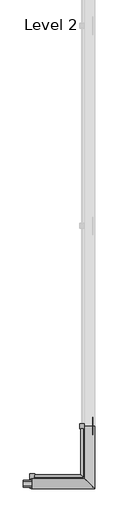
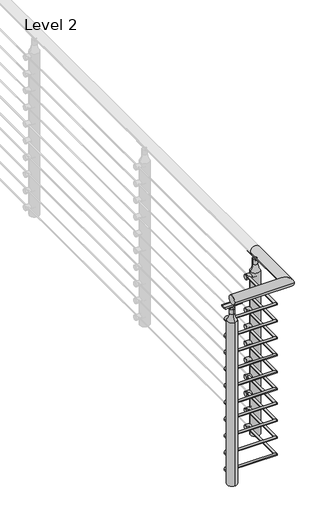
# One storey, part 6 of 21: 1 railing.
"""IFC4 building model written with IfcOpenShell, lengths in millimetres."""

from ifc_helpers import new_model, si_unit, point, frame, frame_2d, origin, place, context, project, spatial, polyline, circle_curve, ellipse_curve, trimmed, segment, composite_curve, outline, extrude, element, save
from ifc_brep_helpers import plane_surface, cylinder_surface, revolved_surface, advanced_brep

model = new_model("IFC4")

# Units and contexts
model_context = context("Model", 3, world=origin())
ifc_project = project(units=[si_unit("LENGTHUNIT", "METRE", prefix="MILLI")], contexts=[model_context])

# Site, building, storey
site = spatial("IfcSite", under=ifc_project)
building = spatial("IfcBuilding", under=site)
storey = spatial("IfcBuildingStorey", under=building, Name="Level 2", Elevation=3048.0)

# Railing
placement = place(None, origin())
element("IfcRailing", 1, ObjectType="VIVA-CIRCA-Multiline-Cable-Weld Mount-Corner", at=placement, inside=storey, context=model_context, shape_type="SolidModel", body=[
    advanced_brep(
    [(46126.2072927, -68844.6034511, 4102.1), (46126.2072927, -68793.8034511, 4102.1), (46443.7072927, -68844.6034511, 4102.1), (46392.9072927, -68793.8034511, 4102.1), (46443.7072927, -68527.1034511, 4102.1), (46392.9072927, -68527.1034511, 4102.1)],
    [
        (0, 1, circle_curve(frame((46126.2072927, -68819.2034511, 4102.1), z_axis=(-1.0, 0.0, 0.0), x_axis=(0.0, 1.0, 0.0)), 25.4)),
        (1, 0, circle_curve(frame((46126.2072927, -68819.2034511, 4102.1), z_axis=(-1.0, 0.0, 0.0), x_axis=(0.0, 1.0, 0.0)), 25.4)),
        (0, 2),
        (2, 3, ellipse_curve(frame((46418.3072927, -68819.2034511, 4102.1), z_axis=(-0.7071067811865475, -0.7071067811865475, 0.0), x_axis=(-0.7071067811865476, 0.7071067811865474, 0.0)), 35.9210245, 25.4)),
        (3, 1),
        (3, 2, ellipse_curve(frame((46418.3072927, -68819.2034511, 4102.1), z_axis=(-0.7071067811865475, -0.7071067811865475, 0.0), x_axis=(-0.7071067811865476, 0.7071067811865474, 0.0)), 35.9210245, 25.4)),
        (4, 5, circle_curve(frame((46418.3072927, -68527.1034511, 4102.1), z_axis=(0.0, 1.0, 0.0), x_axis=(-1.0, 0.0, 0.0)), 25.4)),
        (5, 4, circle_curve(frame((46418.3072927, -68527.1034511, 4102.1), z_axis=(0.0, 1.0, 0.0), x_axis=(-1.0, 0.0, 0.0)), 25.4)),
        (2, 4),
        (5, 3),
    ],
    [
        plane_surface(frame((46126.2072927, -68819.2034511, 4127.5), z_axis=(-1.0, 0.0, 0.0), x_axis=(0.0, 1.0, 0.0))),
        cylinder_surface(frame((46126.2072927, -68819.2034511, 4102.1), z_axis=(-1.0, 0.0, 0.0), x_axis=(0.0, 1.0, 0.0)), 25.4),
        plane_surface(frame((46418.3072927, -68527.1034511, 4127.5), z_axis=(0.0, 1.0, 0.0), x_axis=(0.0, 0.0, 1.0))),
        cylinder_surface(frame((46418.3072927, -68819.2034511, 4102.1), z_axis=(0.0, -1.0, 0.0), x_axis=(-1.0, 0.0, 0.0)), 25.4),
    ],
    [
        (0, [[1, 2]]),
        (1, [[-1, 3, 4, 5]]),
        (1, [[-2, -5, 6, -3]]),
        (2, [[7, 8]]),
        (3, [[-4, 9, -8, 10]]),
        (3, [[-6, -10, -7, -9]]),
    ],
),
    advanced_brep(
    [(46126.2072927, -68774.7534511, 3968.75), (46126.2072927, -68787.4534511, 3968.75), (46373.8572927, -68774.7534511, 3968.75), (46386.5572927, -68787.4534511, 3968.75), (46373.8572927, -68527.1034511, 3968.75), (46386.5572927, -68527.1034511, 3968.75)],
    [
        (0, 1, circle_curve(frame((46126.2072927, -68781.1034511, 3968.75), z_axis=(-1.0, 0.0, 0.0), x_axis=(0.0, -1.0, 0.0)), 6.35)),
        (1, 0, circle_curve(frame((46126.2072927, -68781.1034511, 3968.75), z_axis=(-1.0, 0.0, 0.0), x_axis=(0.0, -1.0, 0.0)), 6.35)),
        (0, 2),
        (2, 3, ellipse_curve(frame((46380.2072927, -68781.1034511, 3968.75), z_axis=(-0.7071067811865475, -0.7071067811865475, 0.0), x_axis=(-0.7071067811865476, 0.7071067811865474, 0.0)), 8.9802561, 6.35)),
        (3, 1),
        (3, 2, ellipse_curve(frame((46380.2072927, -68781.1034511, 3968.75), z_axis=(-0.7071067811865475, -0.7071067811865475, 0.0), x_axis=(-0.7071067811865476, 0.7071067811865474, 0.0)), 8.9802561, 6.35)),
        (4, 5, circle_curve(frame((46380.2072927, -68527.1034511, 3968.75), z_axis=(0.0, 1.0, 0.0), x_axis=(1.0, 0.0, 0.0)), 6.35)),
        (5, 4, circle_curve(frame((46380.2072927, -68527.1034511, 3968.75), z_axis=(0.0, 1.0, 0.0), x_axis=(1.0, 0.0, 0.0)), 6.35)),
        (2, 4),
        (5, 3),
    ],
    [
        plane_surface(frame((46126.2072927, -68781.1034511, 3975.1), z_axis=(-1.0, 0.0, 0.0), x_axis=(0.0, 1.0, 0.0))),
        cylinder_surface(frame((46126.2072927, -68781.1034511, 3968.75), z_axis=(-1.0, 0.0, 0.0), x_axis=(0.0, -1.0, 0.0)), 6.35),
        plane_surface(frame((46380.2072927, -68527.1034511, 3975.1), z_axis=(0.0, 1.0, 0.0), x_axis=(0.0, 0.0, 1.0))),
        cylinder_surface(frame((46380.2072927, -68781.1034511, 3968.75), z_axis=(0.0, -1.0, 0.0), x_axis=(1.0, 0.0, 0.0)), 6.35),
    ],
    [
        (0, [[1, 2]]),
        (1, [[-1, 3, 4, 5]]),
        (1, [[-2, -5, 6, -3]]),
        (2, [[7, 8]]),
        (3, [[-4, 9, -8, 10]]),
        (3, [[-6, -10, -7, -9]]),
    ],
),
    advanced_brep(
    [(46126.2072927, -68774.7534511, 3873.5), (46126.2072927, -68787.4534511, 3873.5), (46373.8572927, -68774.7534511, 3873.5), (46386.5572927, -68787.4534511, 3873.5), (46373.8572927, -68527.1034511, 3873.5), (46386.5572927, -68527.1034511, 3873.5)],
    [
        (0, 1, circle_curve(frame((46126.2072927, -68781.1034511, 3873.5), z_axis=(-1.0, 0.0, 0.0), x_axis=(0.0, -1.0, 0.0)), 6.35)),
        (1, 0, circle_curve(frame((46126.2072927, -68781.1034511, 3873.5), z_axis=(-1.0, 0.0, 0.0), x_axis=(0.0, -1.0, 0.0)), 6.35)),
        (0, 2),
        (2, 3, ellipse_curve(frame((46380.2072927, -68781.1034511, 3873.5), z_axis=(-0.7071067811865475, -0.7071067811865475, 0.0), x_axis=(-0.7071067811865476, 0.7071067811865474, 0.0)), 8.9802561, 6.35)),
        (3, 1),
        (3, 2, ellipse_curve(frame((46380.2072927, -68781.1034511, 3873.5), z_axis=(-0.7071067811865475, -0.7071067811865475, 0.0), x_axis=(-0.7071067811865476, 0.7071067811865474, 0.0)), 8.9802561, 6.35)),
        (4, 5, circle_curve(frame((46380.2072927, -68527.1034511, 3873.5), z_axis=(0.0, 1.0, 0.0), x_axis=(1.0, 0.0, 0.0)), 6.35)),
        (5, 4, circle_curve(frame((46380.2072927, -68527.1034511, 3873.5), z_axis=(0.0, 1.0, 0.0), x_axis=(1.0, 0.0, 0.0)), 6.35)),
        (2, 4),
        (5, 3),
    ],
    [
        plane_surface(frame((46126.2072927, -68781.1034511, 3879.85), z_axis=(-1.0, 0.0, 0.0), x_axis=(0.0, 1.0, 0.0))),
        cylinder_surface(frame((46126.2072927, -68781.1034511, 3873.5), z_axis=(-1.0, 0.0, 0.0), x_axis=(0.0, -1.0, 0.0)), 6.35),
        plane_surface(frame((46380.2072927, -68527.1034511, 3879.85), z_axis=(0.0, 1.0, 0.0), x_axis=(0.0, 0.0, 1.0))),
        cylinder_surface(frame((46380.2072927, -68781.1034511, 3873.5), z_axis=(0.0, -1.0, 0.0), x_axis=(1.0, 0.0, 0.0)), 6.35),
    ],
    [
        (0, [[1, 2]]),
        (1, [[-1, 3, 4, 5]]),
        (1, [[-2, -5, 6, -3]]),
        (2, [[7, 8]]),
        (3, [[-4, 9, -8, 10]]),
        (3, [[-6, -10, -7, -9]]),
    ],
),
    advanced_brep(
    [(46126.2072927, -68774.7534511, 3778.25), (46126.2072927, -68787.4534511, 3778.25), (46373.8572927, -68774.7534511, 3778.25), (46386.5572927, -68787.4534511, 3778.25), (46373.8572927, -68527.1034511, 3778.25), (46386.5572927, -68527.1034511, 3778.25)],
    [
        (0, 1, circle_curve(frame((46126.2072927, -68781.1034511, 3778.25), z_axis=(-1.0, 0.0, 0.0), x_axis=(0.0, -1.0, 0.0)), 6.35)),
        (1, 0, circle_curve(frame((46126.2072927, -68781.1034511, 3778.25), z_axis=(-1.0, 0.0, 0.0), x_axis=(0.0, -1.0, 0.0)), 6.35)),
        (0, 2),
        (2, 3, ellipse_curve(frame((46380.2072927, -68781.1034511, 3778.25), z_axis=(-0.7071067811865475, -0.7071067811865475, 0.0), x_axis=(-0.7071067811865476, 0.7071067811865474, 0.0)), 8.9802561, 6.35)),
        (3, 1),
        (3, 2, ellipse_curve(frame((46380.2072927, -68781.1034511, 3778.25), z_axis=(-0.7071067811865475, -0.7071067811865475, 0.0), x_axis=(-0.7071067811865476, 0.7071067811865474, 0.0)), 8.9802561, 6.35)),
        (4, 5, circle_curve(frame((46380.2072927, -68527.1034511, 3778.25), z_axis=(0.0, 1.0, 0.0), x_axis=(1.0, 0.0, 0.0)), 6.35)),
        (5, 4, circle_curve(frame((46380.2072927, -68527.1034511, 3778.25), z_axis=(0.0, 1.0, 0.0), x_axis=(1.0, 0.0, 0.0)), 6.35)),
        (2, 4),
        (5, 3),
    ],
    [
        plane_surface(frame((46126.2072927, -68781.1034511, 3784.6), z_axis=(-1.0, 0.0, 0.0), x_axis=(0.0, 1.0, 0.0))),
        cylinder_surface(frame((46126.2072927, -68781.1034511, 3778.25), z_axis=(-1.0, 0.0, 0.0), x_axis=(0.0, -1.0, 0.0)), 6.35),
        plane_surface(frame((46380.2072927, -68527.1034511, 3784.6), z_axis=(0.0, 1.0, 0.0), x_axis=(0.0, 0.0, 1.0))),
        cylinder_surface(frame((46380.2072927, -68781.1034511, 3778.25), z_axis=(0.0, -1.0, 0.0), x_axis=(1.0, 0.0, 0.0)), 6.35),
    ],
    [
        (0, [[1, 2]]),
        (1, [[-1, 3, 4, 5]]),
        (1, [[-2, -5, 6, -3]]),
        (2, [[7, 8]]),
        (3, [[-4, 9, -8, 10]]),
        (3, [[-6, -10, -7, -9]]),
    ],
),
    advanced_brep(
    [(46126.2072927, -68774.7534511, 3683.0), (46126.2072927, -68787.4534511, 3683.0), (46373.8572927, -68774.7534511, 3683.0), (46386.5572927, -68787.4534511, 3683.0), (46373.8572927, -68527.1034511, 3683.0), (46386.5572927, -68527.1034511, 3683.0)],
    [
        (0, 1, circle_curve(frame((46126.2072927, -68781.1034511, 3683.0), z_axis=(-1.0, 0.0, 0.0), x_axis=(0.0, -1.0, 0.0)), 6.35)),
        (1, 0, circle_curve(frame((46126.2072927, -68781.1034511, 3683.0), z_axis=(-1.0, 0.0, 0.0), x_axis=(0.0, -1.0, 0.0)), 6.35)),
        (0, 2),
        (2, 3, ellipse_curve(frame((46380.2072927, -68781.1034511, 3683.0), z_axis=(-0.7071067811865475, -0.7071067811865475, 0.0), x_axis=(-0.7071067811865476, 0.7071067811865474, 0.0)), 8.9802561, 6.35)),
        (3, 1),
        (3, 2, ellipse_curve(frame((46380.2072927, -68781.1034511, 3683.0), z_axis=(-0.7071067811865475, -0.7071067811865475, 0.0), x_axis=(-0.7071067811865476, 0.7071067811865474, 0.0)), 8.9802561, 6.35)),
        (4, 5, circle_curve(frame((46380.2072927, -68527.1034511, 3683.0), z_axis=(0.0, 1.0, 0.0), x_axis=(1.0, 0.0, 0.0)), 6.35)),
        (5, 4, circle_curve(frame((46380.2072927, -68527.1034511, 3683.0), z_axis=(0.0, 1.0, 0.0), x_axis=(1.0, 0.0, 0.0)), 6.35)),
        (2, 4),
        (5, 3),
    ],
    [
        plane_surface(frame((46126.2072927, -68781.1034511, 3689.35), z_axis=(-1.0, 0.0, 0.0), x_axis=(0.0, 1.0, 0.0))),
        cylinder_surface(frame((46126.2072927, -68781.1034511, 3683.0), z_axis=(-1.0, 0.0, 0.0), x_axis=(0.0, -1.0, 0.0)), 6.35),
        plane_surface(frame((46380.2072927, -68527.1034511, 3689.35), z_axis=(0.0, 1.0, 0.0), x_axis=(0.0, 0.0, 1.0))),
        cylinder_surface(frame((46380.2072927, -68781.1034511, 3683.0), z_axis=(0.0, -1.0, 0.0), x_axis=(1.0, 0.0, 0.0)), 6.35),
    ],
    [
        (0, [[1, 2]]),
        (1, [[-1, 3, 4, 5]]),
        (1, [[-2, -5, 6, -3]]),
        (2, [[7, 8]]),
        (3, [[-4, 9, -8, 10]]),
        (3, [[-6, -10, -7, -9]]),
    ],
),
    advanced_brep(
    [(46126.2072927, -68774.7534511, 3587.75), (46126.2072927, -68787.4534511, 3587.75), (46373.8572927, -68774.7534511, 3587.75), (46386.5572927, -68787.4534511, 3587.75), (46373.8572927, -68527.1034511, 3587.75), (46386.5572927, -68527.1034511, 3587.75)],
    [
        (0, 1, circle_curve(frame((46126.2072927, -68781.1034511, 3587.75), z_axis=(-1.0, 0.0, 0.0), x_axis=(0.0, -1.0, 0.0)), 6.35)),
        (1, 0, circle_curve(frame((46126.2072927, -68781.1034511, 3587.75), z_axis=(-1.0, 0.0, 0.0), x_axis=(0.0, -1.0, 0.0)), 6.35)),
        (0, 2),
        (2, 3, ellipse_curve(frame((46380.2072927, -68781.1034511, 3587.75), z_axis=(-0.7071067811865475, -0.7071067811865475, 0.0), x_axis=(-0.7071067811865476, 0.7071067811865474, 0.0)), 8.9802561, 6.35)),
        (3, 1),
        (3, 2, ellipse_curve(frame((46380.2072927, -68781.1034511, 3587.75), z_axis=(-0.7071067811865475, -0.7071067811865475, 0.0), x_axis=(-0.7071067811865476, 0.7071067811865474, 0.0)), 8.9802561, 6.35)),
        (4, 5, circle_curve(frame((46380.2072927, -68527.1034511, 3587.75), z_axis=(0.0, 1.0, 0.0), x_axis=(1.0, 0.0, 0.0)), 6.35)),
        (5, 4, circle_curve(frame((46380.2072927, -68527.1034511, 3587.75), z_axis=(0.0, 1.0, 0.0), x_axis=(1.0, 0.0, 0.0)), 6.35)),
        (2, 4),
        (5, 3),
    ],
    [
        plane_surface(frame((46126.2072927, -68781.1034511, 3594.1), z_axis=(-1.0, 0.0, 0.0), x_axis=(0.0, 1.0, 0.0))),
        cylinder_surface(frame((46126.2072927, -68781.1034511, 3587.75), z_axis=(-1.0, 0.0, 0.0), x_axis=(0.0, -1.0, 0.0)), 6.35),
        plane_surface(frame((46380.2072927, -68527.1034511, 3594.1), z_axis=(0.0, 1.0, 0.0), x_axis=(0.0, 0.0, 1.0))),
        cylinder_surface(frame((46380.2072927, -68781.1034511, 3587.75), z_axis=(0.0, -1.0, 0.0), x_axis=(1.0, 0.0, 0.0)), 6.35),
    ],
    [
        (0, [[1, 2]]),
        (1, [[-1, 3, 4, 5]]),
        (1, [[-2, -5, 6, -3]]),
        (2, [[7, 8]]),
        (3, [[-4, 9, -8, 10]]),
        (3, [[-6, -10, -7, -9]]),
    ],
),
    advanced_brep(
    [(46126.2072927, -68774.7534511, 3492.5), (46126.2072927, -68787.4534511, 3492.5), (46373.8572927, -68774.7534511, 3492.5), (46386.5572927, -68787.4534511, 3492.5), (46373.8572927, -68527.1034511, 3492.5), (46386.5572927, -68527.1034511, 3492.5)],
    [
        (0, 1, circle_curve(frame((46126.2072927, -68781.1034511, 3492.5), z_axis=(-1.0, 0.0, 0.0), x_axis=(0.0, -1.0, 0.0)), 6.35)),
        (1, 0, circle_curve(frame((46126.2072927, -68781.1034511, 3492.5), z_axis=(-1.0, 0.0, 0.0), x_axis=(0.0, -1.0, 0.0)), 6.35)),
        (0, 2),
        (2, 3, ellipse_curve(frame((46380.2072927, -68781.1034511, 3492.5), z_axis=(-0.7071067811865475, -0.7071067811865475, 0.0), x_axis=(-0.7071067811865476, 0.7071067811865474, 0.0)), 8.9802561, 6.35)),
        (3, 1),
        (3, 2, ellipse_curve(frame((46380.2072927, -68781.1034511, 3492.5), z_axis=(-0.7071067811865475, -0.7071067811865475, 0.0), x_axis=(-0.7071067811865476, 0.7071067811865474, 0.0)), 8.9802561, 6.35)),
        (4, 5, circle_curve(frame((46380.2072927, -68527.1034511, 3492.5), z_axis=(0.0, 1.0, 0.0), x_axis=(1.0, 0.0, 0.0)), 6.35)),
        (5, 4, circle_curve(frame((46380.2072927, -68527.1034511, 3492.5), z_axis=(0.0, 1.0, 0.0), x_axis=(1.0, 0.0, 0.0)), 6.35)),
        (2, 4),
        (5, 3),
    ],
    [
        plane_surface(frame((46126.2072927, -68781.1034511, 3498.85), z_axis=(-1.0, 0.0, 0.0), x_axis=(0.0, 1.0, 0.0))),
        cylinder_surface(frame((46126.2072927, -68781.1034511, 3492.5), z_axis=(-1.0, 0.0, 0.0), x_axis=(0.0, -1.0, 0.0)), 6.35),
        plane_surface(frame((46380.2072927, -68527.1034511, 3498.85), z_axis=(0.0, 1.0, 0.0), x_axis=(0.0, 0.0, 1.0))),
        cylinder_surface(frame((46380.2072927, -68781.1034511, 3492.5), z_axis=(0.0, -1.0, 0.0), x_axis=(1.0, 0.0, 0.0)), 6.35),
    ],
    [
        (0, [[1, 2]]),
        (1, [[-1, 3, 4, 5]]),
        (1, [[-2, -5, 6, -3]]),
        (2, [[7, 8]]),
        (3, [[-4, 9, -8, 10]]),
        (3, [[-6, -10, -7, -9]]),
    ],
),
    advanced_brep(
    [(46126.2072927, -68774.7534511, 3409.95), (46126.2072927, -68787.4534511, 3409.95), (46373.8572927, -68774.7534511, 3409.95), (46386.5572927, -68787.4534511, 3409.95), (46373.8572927, -68527.1034511, 3409.95), (46386.5572927, -68527.1034511, 3409.95)],
    [
        (0, 1, circle_curve(frame((46126.2072927, -68781.1034511, 3409.95), z_axis=(-1.0, 0.0, 0.0), x_axis=(0.0, -1.0, 0.0)), 6.35)),
        (1, 0, circle_curve(frame((46126.2072927, -68781.1034511, 3409.95), z_axis=(-1.0, 0.0, 0.0), x_axis=(0.0, -1.0, 0.0)), 6.35)),
        (0, 2),
        (2, 3, ellipse_curve(frame((46380.2072927, -68781.1034511, 3409.95), z_axis=(-0.7071067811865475, -0.7071067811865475, 0.0), x_axis=(-0.7071067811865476, 0.7071067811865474, 0.0)), 8.9802561, 6.35)),
        (3, 1),
        (3, 2, ellipse_curve(frame((46380.2072927, -68781.1034511, 3409.95), z_axis=(-0.7071067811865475, -0.7071067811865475, 0.0), x_axis=(-0.7071067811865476, 0.7071067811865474, 0.0)), 8.9802561, 6.35)),
        (4, 5, circle_curve(frame((46380.2072927, -68527.1034511, 3409.95), z_axis=(0.0, 1.0, 0.0), x_axis=(1.0, 0.0, 0.0)), 6.35)),
        (5, 4, circle_curve(frame((46380.2072927, -68527.1034511, 3409.95), z_axis=(0.0, 1.0, 0.0), x_axis=(1.0, 0.0, 0.0)), 6.35)),
        (2, 4),
        (5, 3),
    ],
    [
        plane_surface(frame((46126.2072927, -68781.1034511, 3416.3), z_axis=(-1.0, 0.0, 0.0), x_axis=(0.0, 1.0, 0.0))),
        cylinder_surface(frame((46126.2072927, -68781.1034511, 3409.95), z_axis=(-1.0, 0.0, 0.0), x_axis=(0.0, -1.0, 0.0)), 6.35),
        plane_surface(frame((46380.2072927, -68527.1034511, 3416.3), z_axis=(0.0, 1.0, 0.0), x_axis=(0.0, 0.0, 1.0))),
        cylinder_surface(frame((46380.2072927, -68781.1034511, 3409.95), z_axis=(0.0, -1.0, 0.0), x_axis=(1.0, 0.0, 0.0)), 6.35),
    ],
    [
        (0, [[1, 2]]),
        (1, [[-1, 3, 4, 5]]),
        (1, [[-2, -5, 6, -3]]),
        (2, [[7, 8]]),
        (3, [[-4, 9, -8, 10]]),
        (3, [[-6, -10, -7, -9]]),
    ],
),
    advanced_brep(
    [(46126.2072927, -68774.7534511, 3314.7), (46126.2072927, -68787.4534511, 3314.7), (46373.8572927, -68774.7534511, 3314.7), (46386.5572927, -68787.4534511, 3314.7), (46373.8572927, -68527.1034511, 3314.7), (46386.5572927, -68527.1034511, 3314.7)],
    [
        (0, 1, circle_curve(frame((46126.2072927, -68781.1034511, 3314.7), z_axis=(-1.0, 0.0, 0.0), x_axis=(0.0, -1.0, 0.0)), 6.35)),
        (1, 0, circle_curve(frame((46126.2072927, -68781.1034511, 3314.7), z_axis=(-1.0, 0.0, 0.0), x_axis=(0.0, -1.0, 0.0)), 6.35)),
        (0, 2),
        (2, 3, ellipse_curve(frame((46380.2072927, -68781.1034511, 3314.7), z_axis=(-0.7071067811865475, -0.7071067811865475, 0.0), x_axis=(-0.7071067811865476, 0.7071067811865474, 0.0)), 8.9802561, 6.35)),
        (3, 1),
        (3, 2, ellipse_curve(frame((46380.2072927, -68781.1034511, 3314.7), z_axis=(-0.7071067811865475, -0.7071067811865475, 0.0), x_axis=(-0.7071067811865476, 0.7071067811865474, 0.0)), 8.9802561, 6.35)),
        (4, 5, circle_curve(frame((46380.2072927, -68527.1034511, 3314.7), z_axis=(0.0, 1.0, 0.0), x_axis=(1.0, 0.0, 0.0)), 6.35)),
        (5, 4, circle_curve(frame((46380.2072927, -68527.1034511, 3314.7), z_axis=(0.0, 1.0, 0.0), x_axis=(1.0, 0.0, 0.0)), 6.35)),
        (2, 4),
        (5, 3),
    ],
    [
        plane_surface(frame((46126.2072927, -68781.1034511, 3321.05), z_axis=(-1.0, 0.0, 0.0), x_axis=(0.0, 1.0, 0.0))),
        cylinder_surface(frame((46126.2072927, -68781.1034511, 3314.7), z_axis=(-1.0, 0.0, 0.0), x_axis=(0.0, -1.0, 0.0)), 6.35),
        plane_surface(frame((46380.2072927, -68527.1034511, 3321.05), z_axis=(0.0, 1.0, 0.0), x_axis=(0.0, 0.0, 1.0))),
        cylinder_surface(frame((46380.2072927, -68781.1034511, 3314.7), z_axis=(0.0, -1.0, 0.0), x_axis=(1.0, 0.0, 0.0)), 6.35),
    ],
    [
        (0, [[1, 2]]),
        (1, [[-1, 3, 4, 5]]),
        (1, [[-2, -5, 6, -3]]),
        (2, [[7, 8]]),
        (3, [[-4, 9, -8, 10]]),
        (3, [[-6, -10, -7, -9]]),
    ],
),
    advanced_brep(
    [(46126.2072927, -68774.7534511, 3219.45), (46126.2072927, -68787.4534511, 3219.45), (46373.8572927, -68774.7534511, 3219.45), (46386.5572927, -68787.4534511, 3219.45), (46373.8572927, -68527.1034511, 3219.45), (46386.5572927, -68527.1034511, 3219.45)],
    [
        (0, 1, circle_curve(frame((46126.2072927, -68781.1034511, 3219.45), z_axis=(-1.0, 0.0, 0.0), x_axis=(0.0, -1.0, 0.0)), 6.35)),
        (1, 0, circle_curve(frame((46126.2072927, -68781.1034511, 3219.45), z_axis=(-1.0, 0.0, 0.0), x_axis=(0.0, -1.0, 0.0)), 6.35)),
        (0, 2),
        (2, 3, ellipse_curve(frame((46380.2072927, -68781.1034511, 3219.45), z_axis=(-0.7071067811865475, -0.7071067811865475, 0.0), x_axis=(-0.7071067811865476, 0.7071067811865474, 0.0)), 8.9802561, 6.35)),
        (3, 1),
        (3, 2, ellipse_curve(frame((46380.2072927, -68781.1034511, 3219.45), z_axis=(-0.7071067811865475, -0.7071067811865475, 0.0), x_axis=(-0.7071067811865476, 0.7071067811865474, 0.0)), 8.9802561, 6.35)),
        (4, 5, circle_curve(frame((46380.2072927, -68527.1034511, 3219.45), z_axis=(0.0, 1.0, 0.0), x_axis=(1.0, 0.0, 0.0)), 6.35)),
        (5, 4, circle_curve(frame((46380.2072927, -68527.1034511, 3219.45), z_axis=(0.0, 1.0, 0.0), x_axis=(1.0, 0.0, 0.0)), 6.35)),
        (2, 4),
        (5, 3),
    ],
    [
        plane_surface(frame((46126.2072927, -68781.1034511, 3225.8), z_axis=(-1.0, 0.0, 0.0), x_axis=(0.0, 1.0, 0.0))),
        cylinder_surface(frame((46126.2072927, -68781.1034511, 3219.45), z_axis=(-1.0, 0.0, 0.0), x_axis=(0.0, -1.0, 0.0)), 6.35),
        plane_surface(frame((46380.2072927, -68527.1034511, 3225.8), z_axis=(0.0, 1.0, 0.0), x_axis=(0.0, 0.0, 1.0))),
        cylinder_surface(frame((46380.2072927, -68781.1034511, 3219.45), z_axis=(0.0, -1.0, 0.0), x_axis=(1.0, 0.0, 0.0)), 6.35),
    ],
    [
        (0, [[1, 2]]),
        (1, [[-1, 3, 4, 5]]),
        (1, [[-2, -5, 6, -3]]),
        (2, [[7, 8]]),
        (3, [[-4, 9, -8, 10]]),
        (3, [[-6, -10, -7, -9]]),
    ],
),
    advanced_brep(
    [(46126.2072927, -68774.7534511, 3124.2), (46126.2072927, -68787.4534511, 3124.2), (46373.8572927, -68774.7534511, 3124.2), (46386.5572927, -68787.4534511, 3124.2), (46373.8572927, -68527.1034511, 3124.2), (46386.5572927, -68527.1034511, 3124.2)],
    [
        (0, 1, circle_curve(frame((46126.2072927, -68781.1034511, 3124.2), z_axis=(-1.0, 0.0, 0.0), x_axis=(0.0, -1.0, 0.0)), 6.35)),
        (1, 0, circle_curve(frame((46126.2072927, -68781.1034511, 3124.2), z_axis=(-1.0, 0.0, 0.0), x_axis=(0.0, -1.0, 0.0)), 6.35)),
        (0, 2),
        (2, 3, ellipse_curve(frame((46380.2072927, -68781.1034511, 3124.2), z_axis=(-0.7071067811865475, -0.7071067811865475, 0.0), x_axis=(-0.7071067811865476, 0.7071067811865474, 0.0)), 8.9802561, 6.35)),
        (3, 1),
        (3, 2, ellipse_curve(frame((46380.2072927, -68781.1034511, 3124.2), z_axis=(-0.7071067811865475, -0.7071067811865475, 0.0), x_axis=(-0.7071067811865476, 0.7071067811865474, 0.0)), 8.9802561, 6.35)),
        (4, 5, circle_curve(frame((46380.2072927, -68527.1034511, 3124.2), z_axis=(0.0, 1.0, 0.0), x_axis=(1.0, 0.0, 0.0)), 6.35)),
        (5, 4, circle_curve(frame((46380.2072927, -68527.1034511, 3124.2), z_axis=(0.0, 1.0, 0.0), x_axis=(1.0, 0.0, 0.0)), 6.35)),
        (2, 4),
        (5, 3),
    ],
    [
        plane_surface(frame((46126.2072927, -68781.1034511, 3130.55), z_axis=(-1.0, 0.0, 0.0), x_axis=(0.0, 1.0, 0.0))),
        cylinder_surface(frame((46126.2072927, -68781.1034511, 3124.2), z_axis=(-1.0, 0.0, 0.0), x_axis=(0.0, -1.0, 0.0)), 6.35),
        plane_surface(frame((46380.2072927, -68527.1034511, 3130.55), z_axis=(0.0, 1.0, 0.0), x_axis=(0.0, 0.0, 1.0))),
        cylinder_surface(frame((46380.2072927, -68781.1034511, 3124.2), z_axis=(0.0, -1.0, 0.0), x_axis=(1.0, 0.0, 0.0)), 6.35),
    ],
    [
        (0, [[1, 2]]),
        (1, [[-1, 3, 4, 5]]),
        (1, [[-2, -5, 6, -3]]),
        (2, [[7, 8]]),
        (3, [[-4, 9, -8, 10]]),
        (3, [[-6, -10, -7, -9]]),
    ],
),
    extrude(outline(composite_curve([segment(trimmed(circle_curve(frame_2d((-68526.3097011, 3124.2)), 12.666458), [point((-68513.6432432, 3124.2))], [point((-68538.9761591, 3124.2))], False, "CARTESIAN"), True, "CONTINUOUS"), segment(trimmed(circle_curve(frame_2d((-68526.3097011, 3124.2)), 12.666458), [point((-68538.9761591, 3124.2))], [point((-68513.6432432, 3124.2))], False, "CARTESIAN"), True, "CONTINUOUS")], self_intersect=False)), frame((46367.5072927, 0.0, 0.0), z_axis=(1.0, 0.0, 0.0), x_axis=(0.0, 1.0, 0.0)), (0.0, 0.0, 1.0), 50.8),
    extrude(outline(composite_curve([segment(trimmed(circle_curve(frame_2d((-68526.3097011, 3218.0388889)), 12.666458), [point((-68513.6432432, 3218.0388889))], [point((-68538.9761591, 3218.0388889))], False, "CARTESIAN"), True, "CONTINUOUS"), segment(trimmed(circle_curve(frame_2d((-68526.3097011, 3218.0388889)), 12.666458), [point((-68538.9761591, 3218.0388889))], [point((-68513.6432432, 3218.0388889))], False, "CARTESIAN"), True, "CONTINUOUS")], self_intersect=False)), frame((46367.5072927, 0.0, 0.0), z_axis=(1.0, 0.0, 0.0), x_axis=(0.0, 1.0, 0.0)), (0.0, 0.0, 1.0), 50.8),
    extrude(outline(composite_curve([segment(trimmed(circle_curve(frame_2d((-68526.3097011, 3311.8777778)), 12.666458), [point((-68513.6432432, 3311.8777778))], [point((-68538.9761591, 3311.8777778))], False, "CARTESIAN"), True, "CONTINUOUS"), segment(trimmed(circle_curve(frame_2d((-68526.3097011, 3311.8777778)), 12.666458), [point((-68538.9761591, 3311.8777778))], [point((-68513.6432432, 3311.8777778))], False, "CARTESIAN"), True, "CONTINUOUS")], self_intersect=False)), frame((46367.5072927, 0.0, 0.0), z_axis=(1.0, 0.0, 0.0), x_axis=(0.0, 1.0, 0.0)), (0.0, 0.0, 1.0), 50.8),
    extrude(outline(composite_curve([segment(trimmed(circle_curve(frame_2d((-68526.3097011, 3405.7166667)), 12.666458), [point((-68513.6432432, 3405.7166667))], [point((-68538.9761591, 3405.7166667))], False, "CARTESIAN"), True, "CONTINUOUS"), segment(trimmed(circle_curve(frame_2d((-68526.3097011, 3405.7166667)), 12.666458), [point((-68538.9761591, 3405.7166667))], [point((-68513.6432432, 3405.7166667))], False, "CARTESIAN"), True, "CONTINUOUS")], self_intersect=False)), frame((46367.5072927, 0.0, 0.0), z_axis=(1.0, 0.0, 0.0), x_axis=(0.0, 1.0, 0.0)), (0.0, 0.0, 1.0), 50.8),
    extrude(outline(composite_curve([segment(trimmed(circle_curve(frame_2d((-68526.3097011, 3499.5555556)), 12.666458), [point((-68513.6432432, 3499.5555556))], [point((-68538.9761591, 3499.5555556))], False, "CARTESIAN"), True, "CONTINUOUS"), segment(trimmed(circle_curve(frame_2d((-68526.3097011, 3499.5555556)), 12.666458), [point((-68538.9761591, 3499.5555556))], [point((-68513.6432432, 3499.5555556))], False, "CARTESIAN"), True, "CONTINUOUS")], self_intersect=False)), frame((46367.5072927, 0.0, 0.0), z_axis=(1.0, 0.0, 0.0), x_axis=(0.0, 1.0, 0.0)), (0.0, 0.0, 1.0), 50.8),
    extrude(outline(composite_curve([segment(trimmed(circle_curve(frame_2d((-68526.3097011, 3593.3944444)), 12.666458), [point((-68513.6432432, 3593.3944444))], [point((-68538.9761591, 3593.3944444))], False, "CARTESIAN"), True, "CONTINUOUS"), segment(trimmed(circle_curve(frame_2d((-68526.3097011, 3593.3944444)), 12.666458), [point((-68538.9761591, 3593.3944444))], [point((-68513.6432432, 3593.3944444))], False, "CARTESIAN"), True, "CONTINUOUS")], self_intersect=False)), frame((46367.5072927, 0.0, 0.0), z_axis=(1.0, 0.0, 0.0), x_axis=(0.0, 1.0, 0.0)), (0.0, 0.0, 1.0), 50.8),
    extrude(outline(composite_curve([segment(trimmed(circle_curve(frame_2d((-68526.3097011, 3687.2333333)), 12.666458), [point((-68513.6432432, 3687.2333333))], [point((-68538.9761591, 3687.2333333))], False, "CARTESIAN"), True, "CONTINUOUS"), segment(trimmed(circle_curve(frame_2d((-68526.3097011, 3687.2333333)), 12.666458), [point((-68538.9761591, 3687.2333333))], [point((-68513.6432432, 3687.2333333))], False, "CARTESIAN"), True, "CONTINUOUS")], self_intersect=False)), frame((46367.5072927, 0.0, 0.0), z_axis=(1.0, 0.0, 0.0), x_axis=(0.0, 1.0, 0.0)), (0.0, 0.0, 1.0), 50.8),
    extrude(outline(composite_curve([segment(trimmed(circle_curve(frame_2d((-68526.3097011, 3781.0722222)), 12.666458), [point((-68513.6432432, 3781.0722222))], [point((-68538.9761591, 3781.0722222))], False, "CARTESIAN"), True, "CONTINUOUS"), segment(trimmed(circle_curve(frame_2d((-68526.3097011, 3781.0722222)), 12.666458), [point((-68538.9761591, 3781.0722222))], [point((-68513.6432432, 3781.0722222))], False, "CARTESIAN"), True, "CONTINUOUS")], self_intersect=False)), frame((46367.5072927, 0.0, 0.0), z_axis=(1.0, 0.0, 0.0), x_axis=(0.0, 1.0, 0.0)), (0.0, 0.0, 1.0), 50.8),
    extrude(outline(composite_curve([segment(trimmed(circle_curve(frame_2d((-68526.3097011, 3968.75)), 12.666458), [point((-68513.6432432, 3968.75))], [point((-68538.9761591, 3968.75))], False, "CARTESIAN"), True, "CONTINUOUS"), segment(trimmed(circle_curve(frame_2d((-68526.3097011, 3968.75)), 12.666458), [point((-68538.9761591, 3968.75))], [point((-68513.6432432, 3968.75))], False, "CARTESIAN"), True, "CONTINUOUS")], self_intersect=False)), frame((46367.5072927, 0.0, 0.0), z_axis=(1.0, 0.0, 0.0), x_axis=(0.0, 1.0, 0.0)), (0.0, 0.0, 1.0), 50.8),
    extrude(outline(composite_curve([segment(trimmed(circle_curve(frame_2d((-68526.3097011, 3874.9111111)), 12.666458), [point((-68513.6432432, 3874.9111111))], [point((-68538.9761591, 3874.9111111))], False, "CARTESIAN"), True, "CONTINUOUS"), segment(trimmed(circle_curve(frame_2d((-68526.3097011, 3874.9111111)), 12.666458), [point((-68538.9761591, 3874.9111111))], [point((-68513.6432432, 3874.9111111))], False, "CARTESIAN"), True, "CONTINUOUS")], self_intersect=False)), frame((46367.5072927, 0.0, 0.0), z_axis=(1.0, 0.0, 0.0), x_axis=(0.0, 1.0, 0.0)), (0.0, 0.0, 1.0), 50.8),
    extrude(outline(composite_curve([segment(trimmed(circle_curve(frame_2d((4103.4254922, 46418.2105643)), 25.4345159), [point((4081.3106679, 46430.7743672))], [point((4081.2157471, 46405.8153306))], True, "CARTESIAN"), True, "CONTINUOUS"), segment(trimmed(circle_curve(frame_2d((4078.7132623, 46404.5706774)), 2.7949225), [point((4081.2157471, 46405.8153306))], [point((4076.3406769, 46403.0933724))], False, "CARTESIAN"), True, "CONTINUOUS"), segment(trimmed(circle_curve(frame_2d((4104.1881188, 46418.3440274)), 31.75), [point((4076.3406769, 46403.0933724))], [point((4076.9214354, 46434.6102646))], False, "CARTESIAN"), True, "CONTINUOUS"), segment(trimmed(circle_curve(frame_2d((4078.7923545, 46432.3219249)), 2.9558141), [point((4076.9214354, 46434.6102646))], [point((4081.3106679, 46430.7743672))], False, "CARTESIAN"), True, "CONTINUOUS")], self_intersect=False)), frame((0.0, -68571.9439761, 0.0), z_axis=(0.0, 1.0, 0.0), x_axis=(0.0, 0.0, 1.0)), (0.0, 0.0, 1.0), 90.4748),
    advanced_brep(
    [(46415.7672927, -68499.6386612, 4072.6506908), (46415.7672927, -68514.0065761, 4058.282776), (46415.7672927, -68539.4065761, 4058.282776), (46415.7672927, -68553.774491, 4072.6506908), (46420.8472927, -68499.6386612, 4072.6506908), (46420.8472927, -68553.774491, 4072.6506908), (46420.8472927, -68539.4065761, 4058.282776), (46420.8472927, -68514.0065761, 4058.282776)],
    [
        (0, 1, circle_curve(frame((46415.7672927, -68499.6386612, 4058.282776), z_axis=(1.0, 0.0, 0.0), x_axis=(0.0, -1.0, 0.0)), 14.3679149)),
        (1, 2, circle_curve(frame((46415.7672927, -68526.7065761, 4058.282776), z_axis=(-1.0, 0.0, 0.0), x_axis=(0.0, -1.0, 0.0)), 12.7)),
        (2, 3, circle_curve(frame((46415.7672927, -68553.774491, 4058.282776), z_axis=(1.0, 0.0, 0.0), x_axis=(0.0, -1.0, 0.0)), 14.3679149)),
        (3, 0),
        (4, 5),
        (5, 6, circle_curve(frame((46420.8472927, -68553.774491, 4058.282776), z_axis=(-1.0, 0.0, 0.0), x_axis=(0.0, -1.0, 0.0)), 14.3679149)),
        (6, 7, circle_curve(frame((46420.8472927, -68526.7065761, 4058.282776), z_axis=(1.0, 0.0, 0.0), x_axis=(0.0, -1.0, 0.0)), 12.7)),
        (7, 4, circle_curve(frame((46420.8472927, -68499.6386612, 4058.282776), z_axis=(-1.0, 0.0, 0.0), x_axis=(0.0, -1.0, 0.0)), 14.3679149)),
        (0, 4),
        (7, 1),
        (6, 2),
        (5, 3),
    ],
    [
        plane_surface(frame((46415.7672927, -68514.0065761, 4058.282776), z_axis=(-1.0, 0.0, 0.0), x_axis=(0.0, 0.0, -1.0))),
        plane_surface(frame((46420.8472927, -68514.0065761, 4058.282776), z_axis=(1.0, 0.0, 0.0), x_axis=(0.0, 0.0, 1.0))),
        revolved_surface(polyline([(46420.8472927, -68514.0065761, 4058.282776), (46415.7672927, -68514.0065761, 4058.282776)]), (46420.8472927, -68499.6386612, 4058.282776), (1.0, 0.0, 0.0)),
        cylinder_surface(frame((46420.8472927, -68526.7065761, 4058.282776), z_axis=(-1.0, 0.0, 0.0), x_axis=(0.0, -1.0, 0.0)), 12.7),
        revolved_surface(polyline([(46420.8472927, -68568.1424059, 4058.282776), (46415.7672927, -68568.1424059, 4058.282776)]), (46420.8472927, -68553.774491, 4058.282776), (1.0, 0.0, 0.0)),
        plane_surface(frame((46415.7672927, -68553.774491, 4072.6506908), z_axis=(0.0, 0.0, 1.0), x_axis=(1.0, 0.0, 0.0))),
    ],
    [
        (0, [[1, 2, 3, 4]]),
        (1, [[5, 6, 7, 8]]),
        (2, [[-1, 9, -8, 10]]),
        (3, [[-2, -10, -7, 11]]),
        (4, [[-3, -11, -6, 12]]),
        (5, [[-4, -12, -5, -9]]),
    ],
),
    advanced_brep(
    [(46443.7066905, -68526.7065761, 3989.1347854), (46392.9078949, -68526.7065761, 3989.1347854), (46392.9078949, -68526.7065761, 3073.4), (46443.7066905, -68526.7065761, 3073.4), (46431.0452612, -68526.7065761, 4027.3486202), (46405.5693241, -68526.7065761, 4027.3486202), (46431.0452612, -68526.7065761, 4056.5779599), (46405.5693241, -68526.7065761, 4056.5779599), (46418.3072927, -68526.7065761, 4063.238668), (46418.3072927, -68526.7065761, 3073.4)],
    [
        (0, 1, circle_curve(frame((46418.3072927, -68526.7065761, 3989.1347854), z_axis=(0.0, 0.0, -1.0), x_axis=(-1.0, 0.0, 0.0)), 25.3993978)),
        (1, 2),
        (2, 3, circle_curve(frame((46418.3072927, -68526.7065761, 3073.4), z_axis=(0.0, 0.0, 1.0), x_axis=(-1.0, 0.0, 0.0)), 25.3993978)),
        (3, 0),
        (1, 0, circle_curve(frame((46418.3072927, -68526.7065761, 3989.1347854), z_axis=(0.0, 0.0, -1.0), x_axis=(-1.0, 0.0, 0.0)), 25.3993978)),
        (3, 2, circle_curve(frame((46418.3072927, -68526.7065761, 3073.4), z_axis=(0.0, 0.0, 1.0), x_axis=(-1.0, 0.0, 0.0)), 25.3993978)),
        (4, 5, circle_curve(frame((46418.3072927, -68526.7065761, 4027.3486202), z_axis=(0.0, 0.0, -1.0), x_axis=(-1.0, 0.0, 0.0)), 12.7379685)),
        (5, 1, circle_curve(frame((46341.5714558, -68526.7065761, 4027.3486202), z_axis=(0.0, 1.0, 0.0), x_axis=(-1.0, 0.0, 0.0)), 63.9978683)),
        (0, 4, circle_curve(frame((46495.0431295, -68526.7065761, 4027.3486202), z_axis=(0.0, 1.0, 0.0), x_axis=(1.0, 0.0, 0.0)), 63.9978683)),
        (5, 4, circle_curve(frame((46418.3072927, -68526.7065761, 4027.3486202), z_axis=(0.0, 0.0, -1.0), x_axis=(-1.0, 0.0, 0.0)), 12.7379685)),
        (6, 7, circle_curve(frame((46418.3072927, -68526.7065761, 4056.5779599), z_axis=(0.0, 0.0, -1.0), x_axis=(-1.0, 0.0, 0.0)), 12.7379685)),
        (7, 5),
        (4, 6),
        (7, 6, circle_curve(frame((46418.3072927, -68526.7065761, 4056.5779599), z_axis=(0.0, 0.0, -1.0), x_axis=(-1.0, 0.0, 0.0)), 12.7379685)),
        (8, 7, circle_curve(frame((46418.3072927, -68526.7065761, 4047.7282394), z_axis=(0.0, -1.0, 0.0), x_axis=(-1.0, 0.0, 0.0)), 15.5104286)),
        (6, 8, circle_curve(frame((46418.3072927, -68526.7065761, 4047.7282394), z_axis=(0.0, -1.0, 0.0), x_axis=(1.0, 0.0, 0.0)), 15.5104286)),
        (2, 9),
        (9, 3),
    ],
    [
        cylinder_surface(frame((46418.3072927, -68526.7065761, 4152.9), z_axis=(0.0, 0.0, 1.0), x_axis=(-1.0, 0.0, 0.0)), 25.3993978),
        revolved_surface(trimmed(ellipse_curve(frame((46341.5714558, -68526.7065761, 4027.3486202), z_axis=(0.0, -1.0, 0.0), x_axis=(-1.0, 0.0, 0.0)), 63.9978683, 63.9978683), [point((46392.9078949, -68526.7065761, 3989.1347854))], [point((46405.5693241, -68526.7065761, 4027.3486202))], True, "CARTESIAN"), (46418.3072927, -68526.7065761, 4152.9), (0.0, 0.0, 1.0)),
        cylinder_surface(frame((46418.3072927, -68526.7065761, 4152.9), z_axis=(0.0, 0.0, 1.0), x_axis=(-1.0, 0.0, 0.0)), 12.7379685),
        revolved_surface(trimmed(ellipse_curve(frame((46418.3072927, -68526.7065761, 4047.7282394), z_axis=(0.0, 1.0, 0.0), x_axis=(-1.0, 0.0, 0.0)), 15.5104286, 15.5104286), [point((46405.5693241, -68526.7065761, 4056.5779599))], [point((46418.3072927, -68526.7065761, 4063.238668))], True, "CARTESIAN"), (46418.3072927, -68526.7065761, 4152.9), (0.0, 0.0, 1.0)),
        plane_surface(frame((46418.3072927, -68526.7065761, 3073.4), z_axis=(0.0, 0.0, -1.0), x_axis=(-1.0, 0.0, 0.0))),
    ],
    [
        (0, [[1, 2, 3, 4]]),
        (0, [[5, -4, 6, -2]]),
        (1, [[7, 8, -1, 9]]),
        (1, [[10, -9, -5, -8]]),
        (2, [[11, 12, -7, 13]]),
        (2, [[14, -13, -10, -12]]),
        (3, [[15, -11, 16]]),
        (3, [[-16, -14, -15]]),
        (4, [[-3, 17, 18]]),
        (4, [[-6, -18, -17]]),
    ],
),
    extrude(outline(composite_curve([segment(trimmed(circle_curve(frame_2d((3124.2, 46127.0010427)), 12.666458), [point((3124.2, 46139.6675006))], [point((3124.2, 46114.3345847))], False, "CARTESIAN"), True, "CONTINUOUS"), segment(trimmed(circle_curve(frame_2d((3124.2, 46127.0010427)), 12.666458), [point((3124.2, 46114.3345847))], [point((3124.2, 46139.6675006))], False, "CARTESIAN"), True, "CONTINUOUS")], self_intersect=False)), frame((0.0, -68819.2034511, 0.0), z_axis=(0.0, 1.0, 0.0), x_axis=(0.0, 0.0, 1.0)), (0.0, 0.0, 1.0), 50.8),
    extrude(outline(composite_curve([segment(trimmed(circle_curve(frame_2d((3218.0388889, 46127.0010427)), 12.666458), [point((3218.0388889, 46139.6675006))], [point((3218.0388889, 46114.3345847))], False, "CARTESIAN"), True, "CONTINUOUS"), segment(trimmed(circle_curve(frame_2d((3218.0388889, 46127.0010427)), 12.666458), [point((3218.0388889, 46114.3345847))], [point((3218.0388889, 46139.6675006))], False, "CARTESIAN"), True, "CONTINUOUS")], self_intersect=False)), frame((0.0, -68819.2034511, 0.0), z_axis=(0.0, 1.0, 0.0), x_axis=(0.0, 0.0, 1.0)), (0.0, 0.0, 1.0), 50.8),
    extrude(outline(composite_curve([segment(trimmed(circle_curve(frame_2d((3311.8777778, 46127.0010427)), 12.666458), [point((3311.8777778, 46139.6675006))], [point((3311.8777778, 46114.3345847))], False, "CARTESIAN"), True, "CONTINUOUS"), segment(trimmed(circle_curve(frame_2d((3311.8777778, 46127.0010427)), 12.666458), [point((3311.8777778, 46114.3345847))], [point((3311.8777778, 46139.6675006))], False, "CARTESIAN"), True, "CONTINUOUS")], self_intersect=False)), frame((0.0, -68819.2034511, 0.0), z_axis=(0.0, 1.0, 0.0), x_axis=(0.0, 0.0, 1.0)), (0.0, 0.0, 1.0), 50.8),
    extrude(outline(composite_curve([segment(trimmed(circle_curve(frame_2d((3405.7166667, 46127.0010427)), 12.666458), [point((3405.7166667, 46139.6675006))], [point((3405.7166667, 46114.3345847))], False, "CARTESIAN"), True, "CONTINUOUS"), segment(trimmed(circle_curve(frame_2d((3405.7166667, 46127.0010427)), 12.666458), [point((3405.7166667, 46114.3345847))], [point((3405.7166667, 46139.6675006))], False, "CARTESIAN"), True, "CONTINUOUS")], self_intersect=False)), frame((0.0, -68819.2034511, 0.0), z_axis=(0.0, 1.0, 0.0), x_axis=(0.0, 0.0, 1.0)), (0.0, 0.0, 1.0), 50.8),
    extrude(outline(composite_curve([segment(trimmed(circle_curve(frame_2d((3499.5555556, 46127.0010427)), 12.666458), [point((3499.5555556, 46139.6675006))], [point((3499.5555556, 46114.3345847))], False, "CARTESIAN"), True, "CONTINUOUS"), segment(trimmed(circle_curve(frame_2d((3499.5555556, 46127.0010427)), 12.666458), [point((3499.5555556, 46114.3345847))], [point((3499.5555556, 46139.6675006))], False, "CARTESIAN"), True, "CONTINUOUS")], self_intersect=False)), frame((0.0, -68819.2034511, 0.0), z_axis=(0.0, 1.0, 0.0), x_axis=(0.0, 0.0, 1.0)), (0.0, 0.0, 1.0), 50.8),
    extrude(outline(composite_curve([segment(trimmed(circle_curve(frame_2d((3593.3944444, 46127.0010427)), 12.666458), [point((3593.3944444, 46139.6675006))], [point((3593.3944444, 46114.3345847))], False, "CARTESIAN"), True, "CONTINUOUS"), segment(trimmed(circle_curve(frame_2d((3593.3944444, 46127.0010427)), 12.666458), [point((3593.3944444, 46114.3345847))], [point((3593.3944444, 46139.6675006))], False, "CARTESIAN"), True, "CONTINUOUS")], self_intersect=False)), frame((0.0, -68819.2034511, 0.0), z_axis=(0.0, 1.0, 0.0), x_axis=(0.0, 0.0, 1.0)), (0.0, 0.0, 1.0), 50.8),
    extrude(outline(composite_curve([segment(trimmed(circle_curve(frame_2d((3687.2333333, 46127.0010427)), 12.666458), [point((3687.2333333, 46139.6675006))], [point((3687.2333333, 46114.3345847))], False, "CARTESIAN"), True, "CONTINUOUS"), segment(trimmed(circle_curve(frame_2d((3687.2333333, 46127.0010427)), 12.666458), [point((3687.2333333, 46114.3345847))], [point((3687.2333333, 46139.6675006))], False, "CARTESIAN"), True, "CONTINUOUS")], self_intersect=False)), frame((0.0, -68819.2034511, 0.0), z_axis=(0.0, 1.0, 0.0), x_axis=(0.0, 0.0, 1.0)), (0.0, 0.0, 1.0), 50.8),
    extrude(outline(composite_curve([segment(trimmed(circle_curve(frame_2d((3781.0722222, 46127.0010427)), 12.666458), [point((3781.0722222, 46139.6675006))], [point((3781.0722222, 46114.3345847))], False, "CARTESIAN"), True, "CONTINUOUS"), segment(trimmed(circle_curve(frame_2d((3781.0722222, 46127.0010427)), 12.666458), [point((3781.0722222, 46114.3345847))], [point((3781.0722222, 46139.6675006))], False, "CARTESIAN"), True, "CONTINUOUS")], self_intersect=False)), frame((0.0, -68819.2034511, 0.0), z_axis=(0.0, 1.0, 0.0), x_axis=(0.0, 0.0, 1.0)), (0.0, 0.0, 1.0), 50.8),
    extrude(outline(composite_curve([segment(trimmed(circle_curve(frame_2d((3968.75, 46127.0010427)), 12.666458), [point((3968.75, 46139.6675006))], [point((3968.75, 46114.3345847))], False, "CARTESIAN"), True, "CONTINUOUS"), segment(trimmed(circle_curve(frame_2d((3968.75, 46127.0010427)), 12.666458), [point((3968.75, 46114.3345847))], [point((3968.75, 46139.6675006))], False, "CARTESIAN"), True, "CONTINUOUS")], self_intersect=False)), frame((0.0, -68819.2034511, 0.0), z_axis=(0.0, 1.0, 0.0), x_axis=(0.0, 0.0, 1.0)), (0.0, 0.0, 1.0), 50.8),
    extrude(outline(composite_curve([segment(trimmed(circle_curve(frame_2d((3874.9111111, 46127.0010427)), 12.666458), [point((3874.9111111, 46139.6675006))], [point((3874.9111111, 46114.3345847))], False, "CARTESIAN"), True, "CONTINUOUS"), segment(trimmed(circle_curve(frame_2d((3874.9111111, 46127.0010427)), 12.666458), [point((3874.9111111, 46114.3345847))], [point((3874.9111111, 46139.6675006))], False, "CARTESIAN"), True, "CONTINUOUS")], self_intersect=False)), frame((0.0, -68819.2034511, 0.0), z_axis=(0.0, 1.0, 0.0), x_axis=(0.0, 0.0, 1.0)), (0.0, 0.0, 1.0), 50.8),
    extrude(outline(composite_curve([segment(trimmed(circle_curve(frame_2d((-68819.1067227, 4103.4254922)), 25.4345159), [point((-68831.6705256, 4081.3106679))], [point((-68806.711489, 4081.2157471))], True, "CARTESIAN"), True, "CONTINUOUS"), segment(trimmed(circle_curve(frame_2d((-68805.4668359, 4078.7132623)), 2.7949225), [point((-68806.711489, 4081.2157471))], [point((-68803.9895308, 4076.3406769))], False, "CARTESIAN"), True, "CONTINUOUS"), segment(trimmed(circle_curve(frame_2d((-68819.2401858, 4104.1881188)), 31.75), [point((-68803.9895308, 4076.3406769))], [point((-68835.506423, 4076.9214354))], False, "CARTESIAN"), True, "CONTINUOUS"), segment(trimmed(circle_curve(frame_2d((-68833.2180833, 4078.7923545)), 2.9558141), [point((-68835.506423, 4076.9214354))], [point((-68831.6705256, 4081.3106679))], False, "CARTESIAN"), True, "CONTINUOUS")], self_intersect=False)), frame((46081.3667677, 0.0, 0.0), z_axis=(1.0, 0.0, 0.0), x_axis=(0.0, 1.0, 0.0)), (0.0, 0.0, 1.0), 90.4748),
    advanced_brep(
    [(46153.6720826, -68816.6634511, 4072.6506908), (46139.3041677, -68816.6634511, 4058.282776), (46113.9041677, -68816.6634511, 4058.282776), (46099.5362528, -68816.6634511, 4072.6506908), (46153.6720826, -68821.7434511, 4072.6506908), (46099.5362528, -68821.7434511, 4072.6506908), (46113.9041677, -68821.7434511, 4058.282776), (46139.3041677, -68821.7434511, 4058.282776)],
    [
        (0, 1, circle_curve(frame((46153.6720826, -68816.6634511, 4058.282776), z_axis=(0.0, -1.0, 0.0), x_axis=(-1.0, 0.0, 0.0)), 14.3679149)),
        (1, 2, circle_curve(frame((46126.6041677, -68816.6634511, 4058.282776), z_axis=(0.0, 1.0, 0.0), x_axis=(-1.0, 0.0, 0.0)), 12.7)),
        (2, 3, circle_curve(frame((46099.5362528, -68816.6634511, 4058.282776), z_axis=(0.0, -1.0, 0.0), x_axis=(-1.0, 0.0, 0.0)), 14.3679149)),
        (3, 0),
        (4, 5),
        (5, 6, circle_curve(frame((46099.5362528, -68821.7434511, 4058.282776), z_axis=(0.0, 1.0, 0.0), x_axis=(-1.0, 0.0, 0.0)), 14.3679149)),
        (6, 7, circle_curve(frame((46126.6041677, -68821.7434511, 4058.282776), z_axis=(0.0, -1.0, 0.0), x_axis=(-1.0, 0.0, 0.0)), 12.7)),
        (7, 4, circle_curve(frame((46153.6720826, -68821.7434511, 4058.282776), z_axis=(0.0, 1.0, 0.0), x_axis=(-1.0, 0.0, 0.0)), 14.3679149)),
        (0, 4),
        (7, 1),
        (6, 2),
        (5, 3),
    ],
    [
        plane_surface(frame((46139.3041677, -68816.6634511, 4058.282776), z_axis=(0.0, 1.0, 0.0), x_axis=(0.0, 0.0, -1.0))),
        plane_surface(frame((46139.3041677, -68821.7434511, 4058.282776), z_axis=(0.0, -1.0, 0.0), x_axis=(0.0, 0.0, 1.0))),
        revolved_surface(polyline([(46139.3041677, -68821.7434511, 4058.282776), (46139.3041677, -68816.6634511, 4058.282776)]), (46153.6720826, -68821.7434511, 4058.282776), (0.0, -1.0, 0.0)),
        cylinder_surface(frame((46126.6041677, -68821.7434511, 4058.282776), z_axis=(0.0, 1.0, 0.0), x_axis=(-1.0, 0.0, 0.0)), 12.7),
        revolved_surface(polyline([(46085.168337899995, -68821.7434511, 4058.282776), (46085.168337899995, -68816.6634511, 4058.282776)]), (46099.5362528, -68821.7434511, 4058.282776), (0.0, -1.0, 0.0)),
        plane_surface(frame((46099.5362528, -68816.6634511, 4072.6506908), z_axis=(0.0, 0.0, 1.0), x_axis=(0.0, -1.0, 0.0))),
    ],
    [
        (0, [[1, 2, 3, 4]]),
        (1, [[5, 6, 7, 8]]),
        (2, [[-1, 9, -8, 10]]),
        (3, [[-2, -10, -7, 11]]),
        (4, [[-3, -11, -6, 12]]),
        (5, [[-4, -12, -5, -9]]),
    ],
),
    advanced_brep(
    [(46126.6041677, -68844.6028489, 3989.1347854), (46126.6041677, -68793.8040533, 3989.1347854), (46126.6041677, -68793.8040533, 3073.4), (46126.6041677, -68844.6028489, 3073.4), (46126.6041677, -68831.9414197, 4027.3486202), (46126.6041677, -68806.4654826, 4027.3486202), (46126.6041677, -68831.9414197, 4056.5779599), (46126.6041677, -68806.4654826, 4056.5779599), (46126.6041677, -68819.2034511, 4063.238668), (46126.6041677, -68819.2034511, 3073.4)],
    [
        (0, 1, circle_curve(frame((46126.6041677, -68819.2034511, 3989.1347854), z_axis=(0.0, 0.0, -1.0), x_axis=(0.0, 1.0, 0.0)), 25.3993978)),
        (1, 2),
        (2, 3, circle_curve(frame((46126.6041677, -68819.2034511, 3073.4), z_axis=(0.0, 0.0, 1.0), x_axis=(0.0, 1.0, 0.0)), 25.3993978)),
        (3, 0),
        (1, 0, circle_curve(frame((46126.6041677, -68819.2034511, 3989.1347854), z_axis=(0.0, 0.0, -1.0), x_axis=(0.0, 1.0, 0.0)), 25.3993978)),
        (3, 2, circle_curve(frame((46126.6041677, -68819.2034511, 3073.4), z_axis=(0.0, 0.0, 1.0), x_axis=(0.0, 1.0, 0.0)), 25.3993978)),
        (4, 5, circle_curve(frame((46126.6041677, -68819.2034511, 4027.3486202), z_axis=(0.0, 0.0, -1.0), x_axis=(0.0, 1.0, 0.0)), 12.7379685)),
        (5, 1, circle_curve(frame((46126.6041677, -68742.4676143, 4027.3486202), z_axis=(1.0, 0.0, 0.0), x_axis=(0.0, 1.0, 0.0)), 63.9978683)),
        (0, 4, circle_curve(frame((46126.6041677, -68895.9392879, 4027.3486202), z_axis=(1.0, 0.0, 0.0), x_axis=(0.0, -1.0, 0.0)), 63.9978683)),
        (5, 4, circle_curve(frame((46126.6041677, -68819.2034511, 4027.3486202), z_axis=(0.0, 0.0, -1.0), x_axis=(0.0, 1.0, 0.0)), 12.7379685)),
        (6, 7, circle_curve(frame((46126.6041677, -68819.2034511, 4056.5779599), z_axis=(0.0, 0.0, -1.0), x_axis=(0.0, 1.0, 0.0)), 12.7379685)),
        (7, 5),
        (4, 6),
        (7, 6, circle_curve(frame((46126.6041677, -68819.2034511, 4056.5779599), z_axis=(0.0, 0.0, -1.0), x_axis=(0.0, 1.0, 0.0)), 12.7379685)),
        (8, 7, circle_curve(frame((46126.6041677, -68819.2034511, 4047.7282394), z_axis=(-1.0, 0.0, 0.0), x_axis=(0.0, 1.0, 0.0)), 15.5104286)),
        (6, 8, circle_curve(frame((46126.6041677, -68819.2034511, 4047.7282394), z_axis=(-1.0, 0.0, 0.0), x_axis=(0.0, -1.0, 0.0)), 15.5104286)),
        (2, 9),
        (9, 3),
    ],
    [
        cylinder_surface(frame((46126.6041677, -68819.2034511, 4152.9), z_axis=(0.0, 0.0, 1.0), x_axis=(0.0, 1.0, 0.0)), 25.3993978),
        revolved_surface(trimmed(ellipse_curve(frame((46126.6041677, -68742.4676143, 4027.3486202), z_axis=(-1.0, 0.0, 0.0), x_axis=(0.0, 1.0, 0.0)), 63.9978683, 63.9978683), [point((46126.6041677, -68793.8040533, 3989.1347854))], [point((46126.6041677, -68806.4654826, 4027.3486202))], True, "CARTESIAN"), (46126.6041677, -68819.2034511, 4152.9), (0.0, 0.0, 1.0)),
        cylinder_surface(frame((46126.6041677, -68819.2034511, 4152.9), z_axis=(0.0, 0.0, 1.0), x_axis=(0.0, 1.0, 0.0)), 12.7379685),
        revolved_surface(trimmed(ellipse_curve(frame((46126.6041677, -68819.2034511, 4047.7282394), z_axis=(1.0, 0.0, 0.0), x_axis=(0.0, 1.0, 0.0)), 15.5104286, 15.5104286), [point((46126.6041677, -68806.4654826, 4056.5779599))], [point((46126.6041677, -68819.2034511, 4063.238668))], True, "CARTESIAN"), (46126.6041677, -68819.2034511, 4152.9), (0.0, 0.0, 1.0)),
        plane_surface(frame((46126.6041677, -68819.2034511, 3073.4), z_axis=(0.0, 0.0, -1.0), x_axis=(0.0, 1.0, 0.0))),
    ],
    [
        (0, [[1, 2, 3, 4]]),
        (0, [[5, -4, 6, -2]]),
        (1, [[7, 8, -1, 9]]),
        (1, [[10, -9, -5, -8]]),
        (2, [[11, 12, -7, 13]]),
        (2, [[14, -13, -10, -12]]),
        (3, [[15, -11, 16]]),
        (3, [[-16, -14, -15]]),
        (4, [[-3, 17, 18]]),
        (4, [[-6, -18, -17]]),
    ],
),
])

save(model, "model.ifc")
